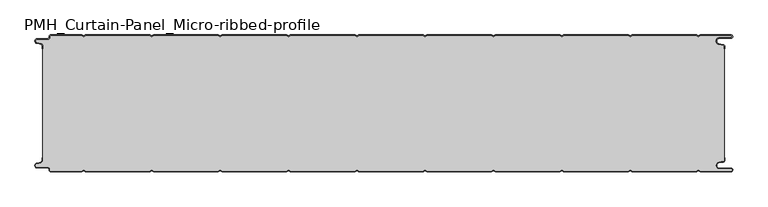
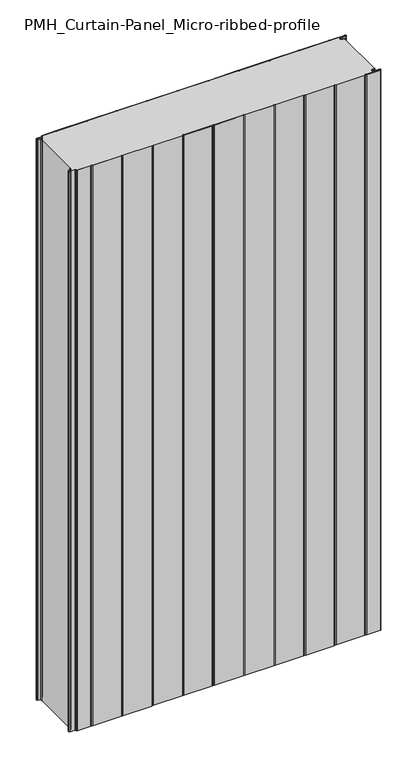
"""IFC4 building model written with IfcOpenShell, lengths in millimetres: plate geometry, PMH_Curtain-Panel_Micro-ribbed-profile : ACH_PMH_Stone-wool-Panel_200M."""

from ifc_helpers import new_model, si_unit, point, frame_2d, origin, origin_with_axes, place, context, project, spatial, polyline, circle_curve, trimmed, segment, composite_curve, outline, extrude, source, transform, mapped, element, save


def pmh_curtain_panel_micro_ribbed_profile_8637e428(model_context):
    return source(origin(), model_context, "Body", "SweptSolid", [
        extrude(outline(composite_curve([segment(trimmed(circle_curve(frame_2d((-502.0, -15.878557)), 2.0), [point((-500.0, -15.878557))], [point((-501.5500978, -13.9298169))], True, "CARTESIAN"), True, "CONTINUOUS"), segment(polyline([(-501.5500978, -13.9298169), (-507.7098239, -12.507732)]), True, "CONTINUOUS"), segment(trimmed(circle_curve(frame_2d((-506.9, -9.0)), 3.6), [point((-507.7098239, -12.507732))], [point((-506.9, -5.4))], False, "CARTESIAN"), True, "CONTINUOUS"), segment(polyline([(-506.9, -5.4), (-491.4, -5.4)]), True, "CONTINUOUS"), segment(trimmed(circle_curve(frame_2d((-491.4, -3.4)), 2.0), [point((-491.4, -5.4))], [point((-489.4, -3.4))], True, "CARTESIAN"), True, "CONTINUOUS"), segment(polyline([(-489.4, -3.4), (-489.4, -2.0)]), True, "CONTINUOUS"), segment(trimmed(circle_curve(frame_2d((-487.4, -2.0)), 2.0), [point((-489.4, -2.0))], [point((-487.4, 0.0))], False, "CARTESIAN"), True, "CONTINUOUS"), segment(polyline([(-487.4, 0.0), (-442.0999995, 0.0), (-439.4, -1.5588455), (-436.7000005, 0.0), (-342.0999995, 0.0), (-339.4, -1.5588455), (-336.7000005, 0.0), (-242.0999995, 0.0), (-239.4, -1.5588455), (-236.7000005, 0.0), (-142.0999995, 0.0), (-139.4, -1.5588455), (-136.7000005, 0.0), (-42.0999995, 0.0), (-39.4, -1.5588455), (-36.7000005, 0.0), (57.9000005, 0.0), (60.6, -1.5588455), (63.2999995, 0.0), (157.9000005, 0.0), (160.6, -1.5588455), (163.2999995, 0.0), (257.9000005, 0.0), (260.6, -1.5588455), (263.2999995, 0.0), (357.9000005, 0.0), (360.6, -1.5588455), (363.2999995, 0.0), (457.9000005, 0.0), (460.6, -1.5588455), (463.2999995, 0.0), (508.1, 0.0)]), True, "CONTINUOUS"), segment(trimmed(circle_curve(frame_2d((508.1, -2.5)), 2.5), [point((508.1, 0.0))], [point((508.1, -5.0))], False, "CARTESIAN"), True, "CONTINUOUS"), segment(polyline([(508.1, -5.0), (491.1, -5.0)]), True, "CONTINUOUS"), segment(trimmed(circle_curve(frame_2d((491.1, -9.0)), 4.0), [point((491.1, -5.0))], [point((490.405407, -12.939231))], True, "CARTESIAN"), True, "CONTINUOUS"), segment(polyline([(490.405407, -12.939231), (496.8514855, -14.0758491)]), True, "CONTINUOUS"), segment(trimmed(circle_curve(frame_2d((496.4, -16.6363492)), 2.6), [point((496.8514855, -14.0758491))], [point((499.0, -16.6363492))], False, "CARTESIAN"), True, "CONTINUOUS"), segment(polyline([(499.0, -16.6363492), (499.0, -20.0), (498.2, -20.0), (498.2, -16.6363492)]), True, "CONTINUOUS"), segment(trimmed(circle_curve(frame_2d((496.4, -16.6363492)), 1.8), [point((498.2, -16.6363492))], [point((496.7125669, -14.8636953))], True, "CARTESIAN"), True, "CONTINUOUS"), segment(polyline([(496.7125669, -14.8636953), (490.2664884, -13.7270772)]), True, "CONTINUOUS"), segment(trimmed(circle_curve(frame_2d((491.1, -9.0)), 4.8), [point((490.2664884, -13.7270772))], [point((491.1, -4.2))], False, "CARTESIAN"), True, "CONTINUOUS"), segment(polyline([(491.1, -4.2), (508.1, -4.2)]), True, "CONTINUOUS"), segment(trimmed(circle_curve(frame_2d((508.1, -2.5)), 1.7), [point((508.1, -4.2))], [point((508.1, -0.8))], True, "CARTESIAN"), True, "CONTINUOUS"), segment(polyline([(508.1, -0.8), (463.5143588, -0.8), (460.6, -2.482606), (457.6856412, -0.8), (363.5143588, -0.8), (360.6, -2.482606), (357.6856412, -0.8), (263.5143588, -0.8), (260.6, -2.482606), (257.6856412, -0.8), (163.5143588, -0.8), (160.6, -2.482606), (157.6856412, -0.8), (63.5143588, -0.8), (60.6, -2.482606), (57.6856412, -0.8), (-36.4856412, -0.8), (-39.4, -2.482606), (-42.3143588, -0.8), (-136.4856412, -0.8), (-139.4, -2.482606), (-142.3143588, -0.8), (-236.4856412, -0.8), (-239.4, -2.482606), (-242.3143588, -0.8), (-336.4856412, -0.8), (-339.4, -2.482606), (-342.3143588, -0.8), (-436.4856412, -0.8), (-439.4, -2.482606), (-442.3143588, -0.8), (-487.4, -0.8)]), True, "CONTINUOUS"), segment(trimmed(circle_curve(frame_2d((-487.4, -2.0)), 1.2), [point((-487.4, -0.8))], [point((-488.6, -2.0))], True, "CARTESIAN"), True, "CONTINUOUS"), segment(polyline([(-488.6, -2.0), (-488.6, -3.4)]), True, "CONTINUOUS"), segment(trimmed(circle_curve(frame_2d((-491.4, -3.4)), 2.8), [point((-488.6, -3.4))], [point((-491.4, -6.2))], False, "CARTESIAN"), True, "CONTINUOUS"), segment(polyline([(-491.4, -6.2), (-506.9, -6.2)]), True, "CONTINUOUS"), segment(trimmed(circle_curve(frame_2d((-506.9, -9.0)), 2.8), [point((-506.9, -6.2))], [point((-507.529863, -11.7282362))], True, "CARTESIAN"), True, "CONTINUOUS"), segment(polyline([(-507.529863, -11.7282362), (-501.370137, -13.150321)]), True, "CONTINUOUS"), segment(trimmed(circle_curve(frame_2d((-502.0, -15.878557)), 2.8), [point((-501.370137, -13.150321))], [point((-499.2, -15.878557))], False, "CARTESIAN"), True, "CONTINUOUS"), segment(polyline([(-499.2, -15.878557), (-499.2, -20.0), (-500.0, -20.0), (-500.0, -15.878557)]), True, "CONTINUOUS")], self_intersect=False)), origin_with_axes(), (0.0, 0.0, 1.0), 1945.7507136),
        extrude(outline(composite_curve([segment(polyline([(-499.2, -184.1214426), (-499.2, -15.8785573)]), True, "CONTINUOUS"), segment(trimmed(circle_curve(frame_2d((-502.0, -15.8785573)), 2.8), [point((-499.2, -15.8785573))], [point((-501.370137, -13.1503212))], True, "CARTESIAN"), True, "CONTINUOUS"), segment(polyline([(-501.370137, -13.1503212), (-507.5298631, -11.7282362)]), True, "CONTINUOUS"), segment(trimmed(circle_curve(frame_2d((-506.9, -9.0)), 2.8), [point((-507.5298631, -11.7282362))], [point((-506.9, -6.2))], False, "CARTESIAN"), True, "CONTINUOUS"), segment(polyline([(-506.9, -6.2), (-491.4000001, -6.2)]), True, "CONTINUOUS"), segment(trimmed(circle_curve(frame_2d((-491.4000001, -3.4)), 2.8), [point((-491.4000001, -6.2))], [point((-488.6000001, -3.4))], True, "CARTESIAN"), True, "CONTINUOUS"), segment(polyline([(-488.6000001, -3.4), (-488.6000001, -2.0)]), True, "CONTINUOUS"), segment(trimmed(circle_curve(frame_2d((-487.4000001, -2.0)), 1.2), [point((-488.6000001, -2.0))], [point((-487.4000001, -0.8))], False, "CARTESIAN"), True, "CONTINUOUS"), segment(polyline([(-487.4000001, -0.8), (-442.3143589, -0.8), (-439.4000001, -2.482606), (-436.4856412, -0.8), (-342.3143589, -0.8), (-339.4000001, -2.482606), (-336.4856412, -0.8), (-242.3143589, -0.8), (-239.4000001, -2.482606), (-236.4856412, -0.8), (-142.3143589, -0.8), (-139.4000001, -2.482606), (-136.4856412, -0.8), (-42.3143589, -0.8), (-39.4000001, -2.482606), (-36.4856412, -0.8), (57.6856411, -0.8), (60.5999999, -2.482606), (63.5143588, -0.8), (157.6856411, -0.8), (160.5999999, -2.482606), (163.5143588, -0.8), (257.6856411, -0.8), (260.5999999, -2.482606), (263.5143588, -0.8), (357.6856411, -0.8), (360.5999999, -2.482606), (363.5143588, -0.8), (457.6856411, -0.8), (460.5999999, -2.482606), (463.5143588, -0.8), (508.0999999, -0.8)]), True, "CONTINUOUS"), segment(trimmed(circle_curve(frame_2d((508.0999999, -2.5)), 1.7), [point((508.0999999, -0.8))], [point((508.0999999, -4.2))], False, "CARTESIAN"), True, "CONTINUOUS"), segment(polyline([(508.0999999, -4.2), (491.0999999, -4.2)]), True, "CONTINUOUS"), segment(trimmed(circle_curve(frame_2d((491.0999999, -9.0)), 4.8), [point((491.0999999, -4.2))], [point((490.2664883, -13.7270771))], True, "CARTESIAN"), True, "CONTINUOUS"), segment(polyline([(490.2664883, -13.7270771), (496.7125668, -14.8636953)]), True, "CONTINUOUS"), segment(trimmed(circle_curve(frame_2d((496.3999999, -16.6363492)), 1.8), [point((496.7125668, -14.8636953))], [point((498.1999999, -16.6363492))], False, "CARTESIAN"), True, "CONTINUOUS"), segment(polyline([(498.1999999, -16.6363492), (498.1999999, -183.3636508)]), True, "CONTINUOUS"), segment(trimmed(circle_curve(frame_2d((496.3999999, -183.3636508)), 1.8), [point((498.1999999, -183.3636508))], [point((496.7125668, -185.1363047))], False, "CARTESIAN"), True, "CONTINUOUS"), segment(polyline([(496.7125668, -185.1363047), (490.2664883, -186.2729229)]), True, "CONTINUOUS"), segment(trimmed(circle_curve(frame_2d((491.0999999, -191.0)), 4.8), [point((490.2664883, -186.2729229))], [point((491.0999999, -195.8))], True, "CARTESIAN"), True, "CONTINUOUS"), segment(polyline([(491.0999999, -195.8), (508.0999999, -195.8)]), True, "CONTINUOUS"), segment(trimmed(circle_curve(frame_2d((508.0999999, -197.5)), 1.7), [point((508.0999999, -195.8))], [point((508.0999999, -199.2))], False, "CARTESIAN"), True, "CONTINUOUS"), segment(polyline([(508.0999999, -199.2), (463.5143588, -199.2), (460.5999999, -197.517394), (457.6856411, -199.2), (363.5143588, -199.2), (360.5999999, -197.517394), (357.6856411, -199.2), (263.5143588, -199.2), (260.5999999, -197.517394), (257.6856411, -199.2), (163.5143588, -199.2), (160.5999999, -197.517394), (157.6856411, -199.2), (63.5143588, -199.2), (60.5999999, -197.517394), (57.6856411, -199.2), (-36.4856412, -199.2), (-39.4000001, -197.517394), (-42.3143589, -199.2), (-136.4856412, -199.2), (-139.4000001, -197.517394), (-142.3143589, -199.2), (-236.4856412, -199.2), (-239.4000001, -197.517394), (-242.3143589, -199.2), (-336.4856412, -199.2), (-339.4000001, -197.517394), (-342.3143589, -199.2), (-436.4856412, -199.2), (-439.4000001, -197.517394), (-442.3143589, -199.2), (-487.4000001, -199.2)]), True, "CONTINUOUS"), segment(trimmed(circle_curve(frame_2d((-487.4000001, -198.0)), 1.2), [point((-487.4000001, -199.2))], [point((-488.6000001, -198.0))], False, "CARTESIAN"), True, "CONTINUOUS"), segment(polyline([(-488.6000001, -198.0), (-488.6000001, -196.6)]), True, "CONTINUOUS"), segment(trimmed(circle_curve(frame_2d((-491.4000001, -196.6)), 2.8), [point((-488.6000001, -196.6))], [point((-491.4000001, -193.8))], True, "CARTESIAN"), True, "CONTINUOUS"), segment(polyline([(-491.4000001, -193.8), (-506.9, -193.8)]), True, "CONTINUOUS"), segment(trimmed(circle_curve(frame_2d((-506.9, -191.0)), 2.8), [point((-506.9, -193.8))], [point((-507.5298631, -188.2717638))], False, "CARTESIAN"), True, "CONTINUOUS"), segment(polyline([(-507.5298631, -188.2717638), (-501.370137, -186.8496788)]), True, "CONTINUOUS"), segment(trimmed(circle_curve(frame_2d((-502.0, -184.1214426)), 2.8), [point((-501.370137, -186.8496788))], [point((-499.2, -184.1214426))], True, "CARTESIAN"), True, "CONTINUOUS")], self_intersect=False)), origin_with_axes(), (0.0, 0.0, 1.0), 1945.7507136),
        extrude(outline(composite_curve([segment(polyline([(-500.0, -184.121443), (-500.0, -180.0), (-499.2, -180.0), (-499.2, -184.121443)]), True, "CONTINUOUS"), segment(trimmed(circle_curve(frame_2d((-502.0, -184.121443)), 2.8), [point((-499.2, -184.121443))], [point((-501.370137, -186.8496792))], False, "CARTESIAN"), True, "CONTINUOUS"), segment(polyline([(-501.370137, -186.8496792), (-507.529863, -188.271764)]), True, "CONTINUOUS"), segment(trimmed(circle_curve(frame_2d((-506.9, -191.0)), 2.8), [point((-507.529863, -188.271764))], [point((-506.9, -193.8))], True, "CARTESIAN"), True, "CONTINUOUS"), segment(polyline([(-506.9, -193.8), (-491.4, -193.8)]), True, "CONTINUOUS"), segment(trimmed(circle_curve(frame_2d((-491.4, -196.6)), 2.8), [point((-491.4, -193.8))], [point((-488.6, -196.6))], False, "CARTESIAN"), True, "CONTINUOUS"), segment(polyline([(-488.6, -196.6), (-488.6, -198.0)]), True, "CONTINUOUS"), segment(trimmed(circle_curve(frame_2d((-487.4, -198.0)), 1.2), [point((-488.6, -198.0))], [point((-487.4, -199.2))], True, "CARTESIAN"), True, "CONTINUOUS"), segment(polyline([(-487.4, -199.2), (-442.3143588, -199.2), (-439.4, -197.517394), (-436.4856412, -199.2), (-342.3143588, -199.2), (-339.4, -197.517394), (-336.4856412, -199.2), (-242.3143588, -199.2), (-239.4, -197.517394), (-236.4856412, -199.2), (-142.3143588, -199.2), (-139.4, -197.517394), (-136.4856412, -199.2), (-42.3143588, -199.2), (-39.4, -197.517394), (-36.4856412, -199.2), (57.6856412, -199.2), (60.6, -197.517394), (63.5143588, -199.2), (157.6856412, -199.2), (160.6, -197.517394), (163.5143588, -199.2), (257.6856412, -199.2), (260.6, -197.517394), (263.5143588, -199.2), (357.6856412, -199.2), (360.6, -197.517394), (363.5143588, -199.2), (457.6856412, -199.2), (460.6, -197.517394), (463.5143588, -199.2), (508.1, -199.2)]), True, "CONTINUOUS"), segment(trimmed(circle_curve(frame_2d((508.1, -197.5)), 1.7), [point((508.1, -199.2))], [point((508.1, -195.8))], True, "CARTESIAN"), True, "CONTINUOUS"), segment(polyline([(508.1, -195.8), (491.1, -195.8)]), True, "CONTINUOUS"), segment(trimmed(circle_curve(frame_2d((491.1, -191.0)), 4.8), [point((491.1, -195.8))], [point((490.2664884, -186.2729229))], False, "CARTESIAN"), True, "CONTINUOUS"), segment(polyline([(490.2664884, -186.2729229), (496.7125669, -185.1363047)]), True, "CONTINUOUS"), segment(trimmed(circle_curve(frame_2d((496.4, -183.3636508)), 1.8), [point((496.7125669, -185.1363047))], [point((498.2, -183.3636508))], True, "CARTESIAN"), True, "CONTINUOUS"), segment(polyline([(498.2, -183.3636508), (498.2, -180.0), (499.0, -180.0), (499.0, -183.3636508)]), True, "CONTINUOUS"), segment(trimmed(circle_curve(frame_2d((496.4, -183.3636508)), 2.6), [point((499.0, -183.3636508))], [point((496.8514855, -185.9241509))], False, "CARTESIAN"), True, "CONTINUOUS"), segment(polyline([(496.8514855, -185.9241509), (490.405407, -187.060769)]), True, "CONTINUOUS"), segment(trimmed(circle_curve(frame_2d((491.1, -191.0)), 4.0), [point((490.405407, -187.060769))], [point((491.1, -195.0))], True, "CARTESIAN"), True, "CONTINUOUS"), segment(polyline([(491.1, -195.0), (508.1, -195.0)]), True, "CONTINUOUS"), segment(trimmed(circle_curve(frame_2d((508.1, -197.5)), 2.5), [point((508.1, -195.0))], [point((508.1, -200.0))], False, "CARTESIAN"), True, "CONTINUOUS"), segment(polyline([(508.1, -200.0), (463.2999995, -200.0), (460.6, -198.4411545), (457.9000005, -200.0), (363.2999995, -200.0), (360.6, -198.4411545), (357.9000005, -200.0), (263.2999995, -200.0), (260.6, -198.4411545), (257.9000005, -200.0), (163.2999995, -200.0), (160.6, -198.4411545), (157.9000005, -200.0), (63.2999995, -200.0), (60.6, -198.4411545), (57.9000005, -200.0), (-36.7000005, -200.0), (-39.4, -198.4411545), (-42.0999995, -200.0), (-136.7000005, -200.0), (-139.4, -198.4411545), (-142.0999995, -200.0), (-236.7000005, -200.0), (-239.4, -198.4411545), (-242.0999995, -200.0), (-336.7000005, -200.0), (-339.4, -198.4411545), (-342.0999995, -200.0), (-436.7000005, -200.0), (-439.4, -198.4411545), (-442.0999995, -200.0), (-487.4, -200.0)]), True, "CONTINUOUS"), segment(trimmed(circle_curve(frame_2d((-487.4, -198.0)), 2.0), [point((-487.4, -200.0))], [point((-489.4, -198.0))], False, "CARTESIAN"), True, "CONTINUOUS"), segment(polyline([(-489.4, -198.0), (-489.4, -196.6)]), True, "CONTINUOUS"), segment(trimmed(circle_curve(frame_2d((-491.4, -196.6)), 2.0), [point((-489.4, -196.6))], [point((-491.4, -194.6))], True, "CARTESIAN"), True, "CONTINUOUS"), segment(polyline([(-491.4, -194.6), (-506.9, -194.6)]), True, "CONTINUOUS"), segment(trimmed(circle_curve(frame_2d((-506.9, -191.0)), 3.6), [point((-506.9, -194.6))], [point((-507.7098239, -187.4922678))], False, "CARTESIAN"), True, "CONTINUOUS"), segment(polyline([(-507.7098239, -187.4922678), (-501.5500979, -186.070183)]), True, "CONTINUOUS"), segment(trimmed(circle_curve(frame_2d((-502.0, -184.121443)), 2.0), [point((-501.5500979, -186.070183))], [point((-500.0, -184.121443))], True, "CARTESIAN"), True, "CONTINUOUS")], self_intersect=False)), origin_with_axes(), (0.0, 0.0, 1.0), 1945.7507136),
    ])


if __name__ == "__main__":
    model = new_model("IFC4")
    model_context = context("Model", 3, world=origin())
    ifc_project = project(units=[si_unit("LENGTHUNIT", "METRE", prefix="MILLI")], contexts=[model_context])
    site = spatial("IfcSite", under=ifc_project)
    building = spatial("IfcBuilding", under=site)
    placement = place(None, origin())
    pmh_curtain_panel_micro_ribbed_profile_shape = pmh_curtain_panel_micro_ribbed_profile_8637e428(model_context)
    element("IfcPlate", 1, ObjectType="PMH_Curtain-Panel_Micro-ribbed-profile : ACH_PMH_Stone-wool-Panel_200M", at=placement, inside=building, context=model_context, shape_type="MappedRepresentation", body=[
        mapped(pmh_curtain_panel_micro_ribbed_profile_shape, transform((0.0, 0.0, 0.0), x_axis=(1.0, 0.0, 0.0), y_axis=(0.0, 1.0, 0.0), z_axis=(0.0, 0.0, 1.0))),
    ])
    save(model, "model.ifc")
